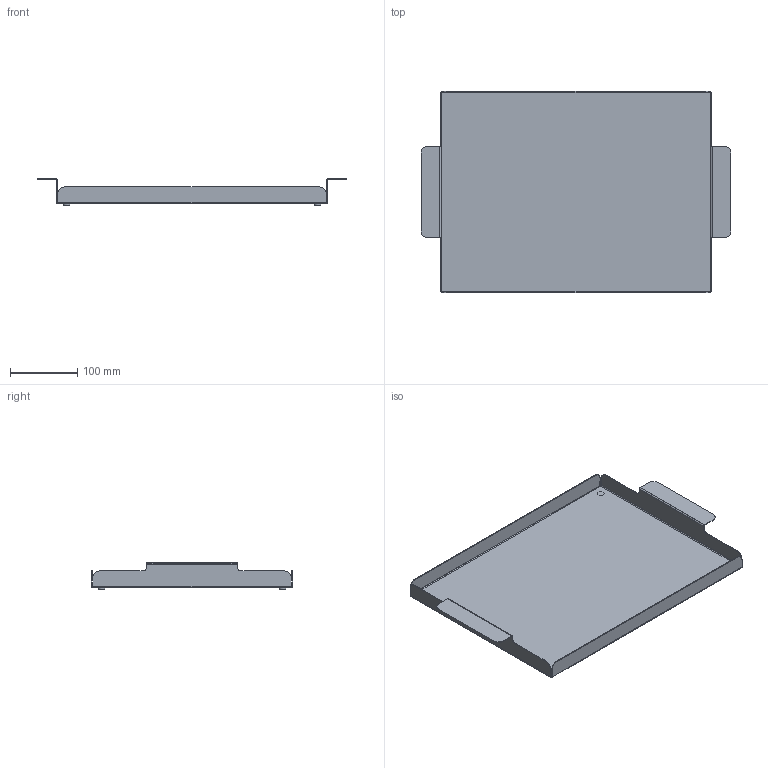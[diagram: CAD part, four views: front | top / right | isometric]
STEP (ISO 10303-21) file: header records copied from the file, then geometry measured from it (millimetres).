
FILE_DESCRIPTION (( 'STEP AP203' ), '1' );
FILE_NAME ('Taca kuchenna BRESCIA.STEP', '2022-07-27T08:13:52', ( '' ), ( '' ), 'SwSTEP 2.0', 'SolidWorks 2021', '' );
FILE_SCHEMA (( 'CONFIG_CONTROL_DESIGN' ));
Length unit declared in the file: millimetre
Products named in the file (1): Taca kuchenna BRESCIA
Bounding box: 462 x 300 x 39 mm (x, y, z)
Volume: 165065 mm3; surface area: 330820.8 mm2
Topology: 1 solids, 1 shells, 90 faces, 204 edges, 120 vertices
Faces by surface type: plane 54, cylinder 36
Entity records: 2553 total; most frequent: DIRECTION 458, CARTESIAN_POINT 415, ORIENTED_EDGE 408, EDGE_CURVE 204, AXIS2_PLACEMENT_3D 163, LINE 132, VECTOR 132, VERTEX_POINT 120
